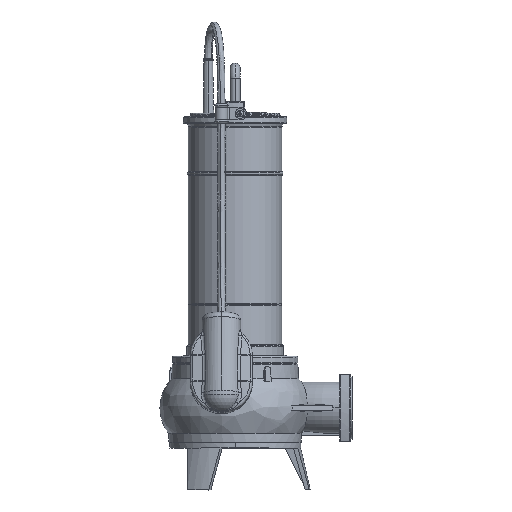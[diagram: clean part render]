
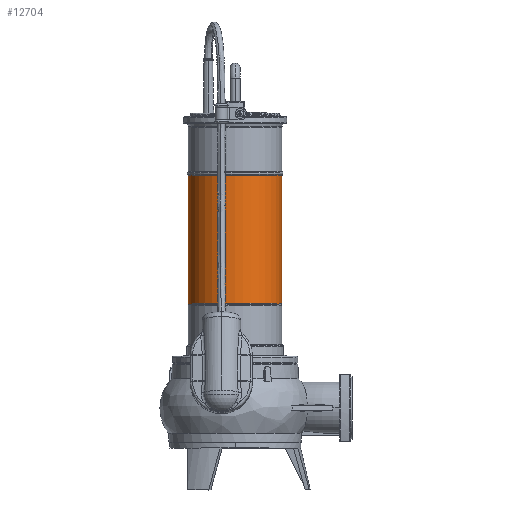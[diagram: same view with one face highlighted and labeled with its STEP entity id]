
A CAD part, top view. The second image highlights one B-rep face of the part: STEP entity #12704.
In plain terms, the highlighted cylindrical face has radius 56 mm (diameter 112 mm), a partial arc.
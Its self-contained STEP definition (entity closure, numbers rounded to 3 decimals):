
#65 = CYLINDRICAL_SURFACE ( 'NONE', #13323, 56. ) ;
#626 = CARTESIAN_POINT ( 'NONE',  ( 56., 325.704, 0. ) ) ;
#683 = DIRECTION ( 'NONE',  ( 0., -1., 0. ) ) ;
#3420 = EDGE_LOOP ( 'NONE', ( #20881, #5117, #11206, #19971 ) ) ;
#3577 = CIRCLE ( 'NONE', #8802, 56. ) ;
#3726 = DIRECTION ( 'NONE',  ( -1., 0., 0. ) ) ;
#3948 = DIRECTION ( 'NONE',  ( 0., -1., 0. ) ) ;
#4543 = VERTEX_POINT ( 'NONE', #10369 ) ;
#4769 = DIRECTION ( 'NONE',  ( 0., -1., 0. ) ) ;
#5117 = ORIENTED_EDGE ( 'NONE', *, *, #13900, .F. ) ;
#5188 = VECTOR ( 'NONE', #24787, 1000. ) ;
#6363 = EDGE_CURVE ( 'NONE', #8520, #22697, #14416, .T. ) ;
#7129 = CIRCLE ( 'NONE', #21179, 56. ) ;
#7433 = CARTESIAN_POINT ( 'NONE',  ( 56., 172.5, 0. ) ) ;
#7742 = DIRECTION ( 'NONE',  ( 1., 0., 0. ) ) ;
#8257 = EDGE_CURVE ( 'NONE', #9592, #4543, #19258, .T. ) ;
#8520 = VERTEX_POINT ( 'NONE', #9316 ) ;
#8802 = AXIS2_PLACEMENT_3D ( 'NONE', #9484, #20567, #3726 ) ;
#9316 = CARTESIAN_POINT ( 'NONE',  ( 56., 325.704, 0. ) ) ;
#9484 = CARTESIAN_POINT ( 'NONE',  ( 0., 325.704, 0. ) ) ;
#9592 = VERTEX_POINT ( 'NONE', #14133 ) ;
#10369 = CARTESIAN_POINT ( 'NONE',  ( -56., 172.5, 0. ) ) ;
#11206 = ORIENTED_EDGE ( 'NONE', *, *, #8257, .T. ) ;
#11952 = DIRECTION ( 'NONE',  ( -1., 0., 0. ) ) ;
#12704 = ADVANCED_FACE ( 'NONE', ( #15233 ), #65, .T. ) ;
#13323 = AXIS2_PLACEMENT_3D ( 'NONE', #17719, #3948, #11952 ) ;
#13900 = EDGE_CURVE ( 'NONE', #9592, #8520, #3577, .T. ) ;
#14133 = CARTESIAN_POINT ( 'NONE',  ( -56., 325.704, 0. ) ) ;
#14416 = LINE ( 'NONE', #626, #21984 ) ;
#15233 = FACE_OUTER_BOUND ( 'NONE', #3420, .T. ) ;
#17241 = CARTESIAN_POINT ( 'NONE',  ( -56., 325.704, 0. ) ) ;
#17281 = CARTESIAN_POINT ( 'NONE',  ( 0., 172.5, 0. ) ) ;
#17719 = CARTESIAN_POINT ( 'NONE',  ( 0., 402.63, 0. ) ) ;
#19258 = LINE ( 'NONE', #17241, #5188 ) ;
#19971 = ORIENTED_EDGE ( 'NONE', *, *, #24287, .F. ) ;
#20567 = DIRECTION ( 'NONE',  ( 0., 1., 0. ) ) ;
#20881 = ORIENTED_EDGE ( 'NONE', *, *, #6363, .F. ) ;
#21179 = AXIS2_PLACEMENT_3D ( 'NONE', #17281, #683, #7742 ) ;
#21984 = VECTOR ( 'NONE', #4769, 1000. ) ;
#22697 = VERTEX_POINT ( 'NONE', #7433 ) ;
#24287 = EDGE_CURVE ( 'NONE', #22697, #4543, #7129, .T. ) ;
#24787 = DIRECTION ( 'NONE',  ( 0., -1., 0. ) ) ;
